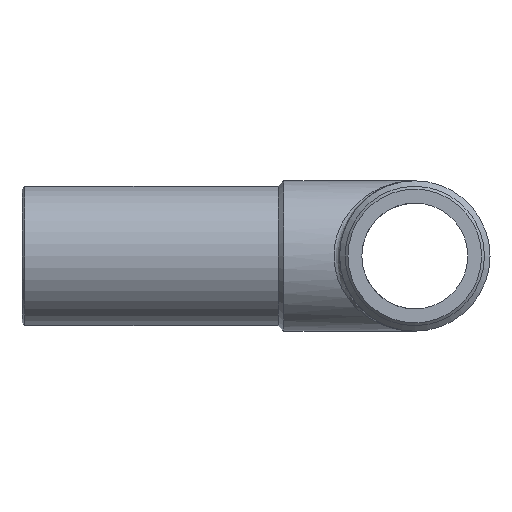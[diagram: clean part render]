
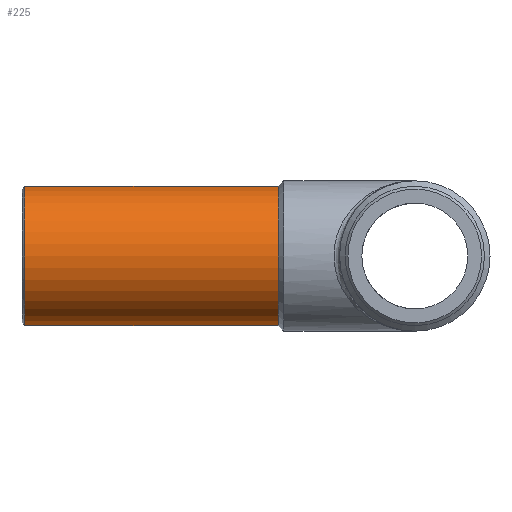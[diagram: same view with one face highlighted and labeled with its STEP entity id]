
A CAD part, left-side view. The second image highlights one B-rep face of the part: STEP entity #225.
In plain terms, the highlighted cylindrical face has radius 12.5 mm (diameter 25 mm), a full revolution.
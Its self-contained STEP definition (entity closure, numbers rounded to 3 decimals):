
#44=CIRCLE('',#275,12.5);
#45=CIRCLE('',#277,12.5);
#76=ORIENTED_EDGE('',*,*,#108,.T.);
#77=ORIENTED_EDGE('',*,*,#107,.F.);
#107=EDGE_CURVE('',#126,#126,#44,.T.);
#108=EDGE_CURVE('',#127,#127,#45,.F.);
#126=VERTEX_POINT('',#407);
#127=VERTEX_POINT('',#410);
#160=EDGE_LOOP('',(#76));
#161=EDGE_LOOP('',(#77));
#196=FACE_BOUND('',#160,.T.);
#197=FACE_BOUND('',#161,.T.);
#212=CYLINDRICAL_SURFACE('',#276,12.5);
#225=ADVANCED_FACE('',(#196,#197),#212,.T.);
#275=AXIS2_PLACEMENT_3D('',#406,#345,#346);
#276=AXIS2_PLACEMENT_3D('',#408,#347,#348);
#277=AXIS2_PLACEMENT_3D('',#409,#349,#350);
#345=DIRECTION('',(0.,-1.,0.));
#346=DIRECTION('',(1.,0.,0.));
#347=DIRECTION('',(0.,-1.,0.));
#348=DIRECTION('',(1.,0.,0.));
#349=DIRECTION('',(0.,1.,0.));
#350=DIRECTION('',(-1.,0.,0.));
#406=CARTESIAN_POINT('',(0.,24.5,0.));
#407=CARTESIAN_POINT('',(12.5,24.5,0.));
#408=CARTESIAN_POINT('',(0.,0.,0.));
#409=CARTESIAN_POINT('',(0.,70.,0.));
#410=CARTESIAN_POINT('',(-12.5,70.,0.));
